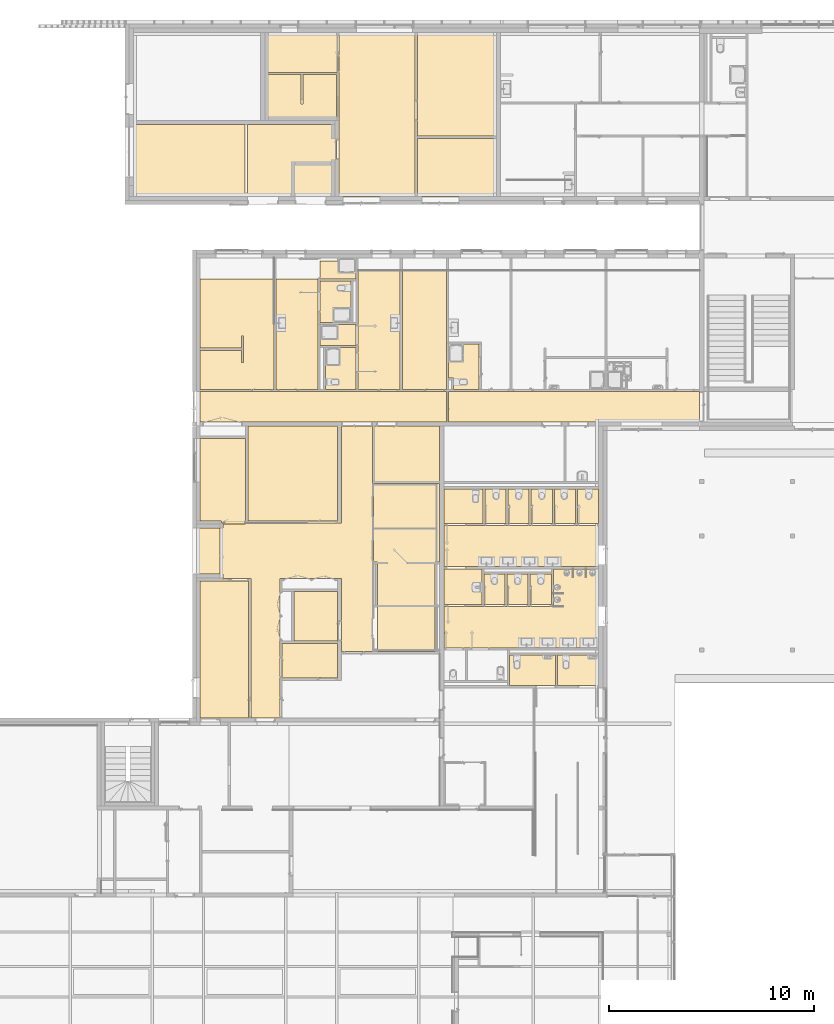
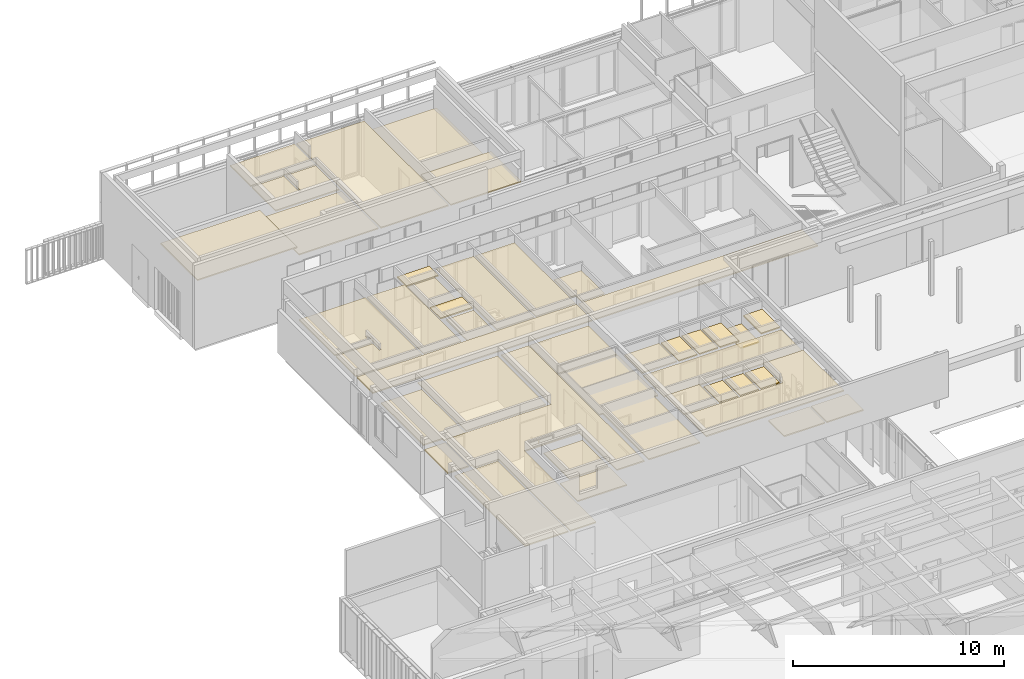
# One storey, part 231 of 240: 38 coverings.
"""IFC2X3 building model written with IfcOpenShell, lengths in centimetres."""

from ifc_helpers import new_model, entity, si_unit, converted_unit, derived_unit, direction, frame, frame_2d, origin, origin_2d_with_axis, place, context, subcontext, project, spatial, polyline, rectangle, outline, extrude, material, layer, layer_set, layer_usage, type_object, element, save


model = new_model("IFC2X3")

# Units and contexts
model_context = context("Model", 3, precision=0.001, world=origin(), true_north=direction((6.12303176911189e-17, 1.0)))
body_context = subcontext(model_context, "Body", "Model", "MODEL_VIEW")
ifc_project = project(units=[si_unit("LENGTHUNIT", "METRE", prefix="CENTI"), si_unit("AREAUNIT", "SQUARE_METRE"), si_unit("VOLUMEUNIT", "CUBIC_METRE"), converted_unit("PLANEANGLEUNIT", "DEGREE", entity("IfcRatioMeasure", 0.0174532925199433), si_unit("PLANEANGLEUNIT", "RADIAN"), dimensions=[0, 0, 0, 0, 0, 0, 0]), si_unit("MASSUNIT", "GRAM", prefix="KILO"), derived_unit("MASSDENSITYUNIT", [(si_unit("MASSUNIT", "GRAM", prefix="KILO"), 1), (si_unit("LENGTHUNIT", "METRE"), -3)]), si_unit("TIMEUNIT", "SECOND"), si_unit("FREQUENCYUNIT", "HERTZ"), si_unit("THERMODYNAMICTEMPERATUREUNIT", "DEGREE_CELSIUS"), derived_unit("THERMALTRANSMITTANCEUNIT", [(si_unit("MASSUNIT", "GRAM", prefix="KILO"), 1), (si_unit("THERMODYNAMICTEMPERATUREUNIT", "KELVIN"), -1), (si_unit("TIMEUNIT", "SECOND"), -3)]), derived_unit("VOLUMETRICFLOWRATEUNIT", [(si_unit("LENGTHUNIT", "METRE"), 3), (si_unit("TIMEUNIT", "SECOND"), -1)]), si_unit("ELECTRICCURRENTUNIT", "AMPERE"), si_unit("ELECTRICVOLTAGEUNIT", "VOLT"), si_unit("POWERUNIT", "WATT"), si_unit("FORCEUNIT", "NEWTON", prefix="KILO"), si_unit("ILLUMINANCEUNIT", "LUX"), si_unit("LUMINOUSFLUXUNIT", "LUMEN"), si_unit("LUMINOUSINTENSITYUNIT", "CANDELA"), derived_unit("USERDEFINED", [(si_unit("MASSUNIT", "GRAM", prefix="KILO"), -1), (si_unit("LENGTHUNIT", "METRE"), -2), (si_unit("TIMEUNIT", "SECOND"), 3), (si_unit("LUMINOUSFLUXUNIT", "LUMEN"), 1)]), derived_unit("LINEARVELOCITYUNIT", [(si_unit("LENGTHUNIT", "METRE"), 1), (si_unit("TIMEUNIT", "SECOND"), -1)]), si_unit("PRESSUREUNIT", "PASCAL"), derived_unit("USERDEFINED", [(si_unit("LENGTHUNIT", "METRE"), -2), (si_unit("MASSUNIT", "GRAM", prefix="KILO"), 1), (si_unit("TIMEUNIT", "SECOND"), -2)])], contexts=[model_context])

# Site, building, storey
site_placement = place(None, frame((-2781.94577612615, 7442.24238424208, 0.0)))
site = spatial("IfcSite", under=ifc_project, at=site_placement, Name="Default", CompositionType="ELEMENT")
building_placement = place(site_placement, origin())
building = spatial("IfcBuilding", under=site, at=building_placement, CompositionType="ELEMENT")
storey_placement = place(building_placement, origin())
storey = spatial("IfcBuildingStorey", under=building, at=storey_placement, Name="N00 - COO", CompositionType="ELEMENT", Elevation=0.0)

# Covering
ifc_material_1 = material(Name="00 - VIDE D'AIR")
ifc_layer_1 = layer(ifc_material_1, 5.7)
ifc_material_2 = material(Name="01 - Enduit/Plâtre - faux plafonds")
ifc_layer_2 = layer(ifc_material_2, 1.3)
ifc_layer_set = layer_set([ifc_layer_1, ifc_layer_2], Name="Plafond composé:11-Plafond 1BA13")
ifc_layer_usage_1 = layer_usage(ifc_layer_set, "AXIS3", "POSITIVE", 0.0)
covering_type_1 = type_object("IfcCoveringType", Name="Plafond composé:11-Plafond 1BA13", PredefinedType="CEILING")
covering_1_placement = place(building_placement, origin())
element("IfcCovering", 1, at=covering_1_placement, inside=storey, type_object=covering_type_1, material=ifc_layer_usage_1, Name="Plafond composé:11-Plafond 1BA13", ObjectType="Plafond composé:11-Plafond 1BA13", PredefinedType="CEILING", context=body_context, shape_type="SweptSolid", body=[
    extrude(rectangle(XDim=350.048500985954, YDim=544.16181917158, at=frame_2d((0.0, -8.81072992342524e-13), x_axis=(1.0, 0.0))), frame((-10918.5807872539, -635.024250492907, 360.0), z_axis=(0.0, 0.0, 1.0), x_axis=(0.0, 1.0, 0.0)), (0.0, 0.0, 1.0), 6.99999999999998),
])

# Space
space_1_placement = place(building_placement, origin())
space_1 = spatial("IfcSpace", under=storey, at=space_1_placement, Name="E-5.2", CompositionType="ELEMENT", InteriorOrExteriorSpace="INTERNAL")

# Covering
ifc_layer_usage_2 = layer_usage(ifc_layer_set, "AXIS3", "POSITIVE", 0.0)
covering_type_2 = type_object("IfcCoveringType", Name="Plafond composé:11-Plafond 1BA13", PredefinedType="CEILING")
covering_2_placement = place(space_1_placement, origin())
element("IfcCovering", 2, at=covering_2_placement, inside=space_1, type_object=covering_type_2, material=ifc_layer_usage_2, Name="Plafond composé:11-Plafond 1BA13", ObjectType="Plafond composé:11-Plafond 1BA13", PredefinedType="CEILING", context=body_context, shape_type="SweptSolid", body=[
    extrude(rectangle(XDim=350.048500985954, YDim=434.999999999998, at=frame_2d((2.8421709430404e-14, 0.0), x_axis=(1.0, 0.0))), frame((-10416.9998776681, -635.024250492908, 313.0), z_axis=(0.0, 0.0, 1.0), x_axis=(0.0, 1.0, 0.0)), (0.0, 0.0, 1.0), 6.99999999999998),
])

# Space
space_2_placement = place(building_placement, origin())
space_2 = spatial("IfcSpace", under=storey, at=space_2_placement, Name="E-2", CompositionType="ELEMENT", InteriorOrExteriorSpace="INTERNAL")

# Coverings
ifc_layer_usage_3 = layer_usage(ifc_layer_set, "AXIS3", "POSITIVE", 0.0)
covering_type_3 = type_object("IfcCoveringType", Name="Plafond composé:11-Plafond 1BA13", PredefinedType="CEILING")
covering_3_placement = place(space_2_placement, origin())
element("IfcCovering", 3, at=covering_3_placement, inside=space_2, type_object=covering_type_3, material=ifc_layer_usage_3, Name="Plafond composé:11-Plafond 1BA13", ObjectType="Plafond composé:11-Plafond 1BA13", PredefinedType="CEILING", context=body_context, shape_type="SweptSolid", body=[
    extrude(outline(polyline([(-178.0, -132.499999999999), (172.0, -132.499999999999), (172.0, 92.4999999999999), (8.0, 92.4999999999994), (8.0, -52.4999999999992), (-1.99999999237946, -52.4999999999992), (-1.99999999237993, 92.499999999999), (-178.0, 92.4999999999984), (-178.0, -132.499999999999)])), frame((-10371.4998776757, -307.499999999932, 313.0)), (0.0, 0.0, 1.0), 6.99999999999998),
    extrude(rectangle(XDim=195.000000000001, YDim=352.000000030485, at=frame_2d((-2.62900812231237e-13, -8.66862137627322e-13), x_axis=(1.0, 0.0))), frame((-10373.4998776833, -107.499999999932, 313.0), z_axis=(0.0, 0.0, 1.0), x_axis=(0.0, -1.0, 0.0)), (0.0, 0.0, 1.0), 6.99999999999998),
])
ifc_layer_usage_4 = layer_usage(ifc_layer_set, "AXIS3", "POSITIVE", 0.0)
covering_type_4 = type_object("IfcCoveringType", Name="Plafond composé:11-Plafond 1BA13", PredefinedType="CEILING")
covering_4_placement = place(building_placement, origin())
element("IfcCovering", 4, at=covering_4_placement, inside=storey, type_object=covering_type_4, material=ifc_layer_usage_4, Name="Plafond composé:11-Plafond 1BA13", ObjectType="Plafond composé:11-Plafond 1BA13", PredefinedType="CEILING", context=body_context, shape_type="SweptSolid", body=[
    extrude(rectangle(XDim=801.748500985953, YDim=370.999999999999, at=frame_2d((2.8421709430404e-13, -8.66862137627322e-13), x_axis=(1.0, 0.0))), frame((-10001.9998776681, -410.874250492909, 313.0), z_axis=(0.0, 0.0, 1.0), x_axis=(0.0, 1.0, 0.0)), (0.0, 0.0, 1.0), 6.99999999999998),
])

# Space
space_3_placement = place(building_placement, origin())
space_3 = spatial("IfcSpace", under=storey, at=space_3_placement, Name="E-4", CompositionType="ELEMENT", InteriorOrExteriorSpace="INTERNAL")

# Coverings
ifc_layer_usage_5 = layer_usage(ifc_layer_set, "AXIS3", "POSITIVE", 0.0)
covering_type_5 = type_object("IfcCoveringType", Name="Plafond composé:11-Plafond 1BA13", PredefinedType="CEILING")
covering_5_placement = place(space_3_placement, origin())
element("IfcCovering", 5, at=covering_5_placement, inside=space_3, type_object=covering_type_5, material=ifc_layer_usage_5, Name="Plafond composé:11-Plafond 1BA13", ObjectType="Plafond composé:11-Plafond 1BA13", PredefinedType="CEILING", context=body_context, shape_type="SweptSolid", body=[
    extrude(rectangle(XDim=385.000000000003, YDim=504.748500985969, at=frame_2d((8.5265128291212e-13, -5.6843418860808e-14), x_axis=(1.0, 0.0))), frame((-9611.99987766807, -262.374250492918, 250.0)), (0.0, 0.0, 1.0), 6.99999999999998),
])
ifc_layer_usage_6 = layer_usage(ifc_layer_set, "AXIS3", "POSITIVE", 0.0)
covering_type_6 = type_object("IfcCoveringType", Name="Plafond composé:11-Plafond 1BA13", PredefinedType="CEILING")
covering_6_placement = place(building_placement, origin())
element("IfcCovering", 6, at=covering_6_placement, inside=storey, type_object=covering_type_6, material=ifc_layer_usage_6, Name="Plafond composé:11-Plafond 1BA13", ObjectType="Plafond composé:11-Plafond 1BA13", PredefinedType="CEILING", context=body_context, shape_type="SweptSolid", body=[
    extrude(rectangle(XDim=284.999999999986, YDim=385.000000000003, at=origin_2d_with_axis()), frame((-9611.99987766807, -669.248500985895, 311.500000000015), z_axis=(0.0, 0.0, 1.0), x_axis=(0.0, 1.0, 0.0)), (0.0, 0.0, 1.0), 6.99999999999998),
])

# Space
space_4_placement = place(building_placement, origin())
space_4 = spatial("IfcSpace", under=storey, at=space_4_placement, Name="D-17", CompositionType="ELEMENT", InteriorOrExteriorSpace="INTERNAL")

# Coverings
ifc_layer_usage_7 = layer_usage(ifc_layer_set, "AXIS3", "POSITIVE", 0.0)
covering_type_7 = type_object("IfcCoveringType", Name="Plafond composé:11-Plafond 1BA13", PredefinedType="CEILING")
covering_7_placement = place(space_4_placement, origin())
element("IfcCovering", 7, at=covering_7_placement, inside=space_4, type_object=covering_type_7, material=ifc_layer_usage_7, Name="Plafond composé:11-Plafond 1BA13", ObjectType="Plafond composé:11-Plafond 1BA13", PredefinedType="CEILING", context=body_context, shape_type="SweptSolid", body=[
    extrude(rectangle(XDim=437.478497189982, YDim=461.000000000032, at=frame_2d((0.0, -1.13686837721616e-13), x_axis=(1.0, 0.0))), frame((-10413.5737990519, -2160.57903364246, 250.0)), (0.0, 0.0, 1.0), 6.99999999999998),
])
ifc_layer_usage_8 = layer_usage(ifc_layer_set, "AXIS3", "POSITIVE", 0.0)
covering_type_8 = type_object("IfcCoveringType", Name="Plafond composé:11-Plafond 1BA13", PredefinedType="CEILING")
covering_8_placement = place(building_placement, origin())
element("IfcCovering", 8, at=covering_8_placement, inside=storey, type_object=covering_type_8, material=ifc_layer_usage_8, Name="Plafond composé:11-Plafond 1BA13", ObjectType="Plafond composé:11-Plafond 1BA13", PredefinedType="CEILING", context=body_context, shape_type="SweptSolid", body=[
    extrude(outline(polyline([(11.357142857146, -152.5), (128.657142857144, -152.5), (128.657142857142, 263.8), (-93.3428571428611, 263.8), (-93.3428571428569, 51.8), (-93.3428571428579, -137.199999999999), (11.357142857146, -137.199999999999), (11.357142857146, -152.5)])), frame((-10772.9701905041, -2253.87903364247, 250.0)), (0.0, 0.0, 1.0), 6.99999999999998),
])
ifc_layer_usage_9 = layer_usage(ifc_layer_set, "AXIS3", "POSITIVE", 0.0)
covering_type_9 = type_object("IfcCoveringType", Name="Plafond composé:11-Plafond 1BA13", PredefinedType="CEILING")
covering_9_placement = place(building_placement, origin())
element("IfcCovering", 9, at=covering_9_placement, inside=storey, type_object=covering_type_9, material=ifc_layer_usage_9, Name="Plafond composé:11-Plafond 1BA13", ObjectType="Plafond composé:11-Plafond 1BA13", PredefinedType="CEILING", context=body_context, shape_type="SweptSolid", body=[
    extrude(outline(polyline([(-161.795879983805, -395.714444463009), (160.045879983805, -395.714444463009), (160.045879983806, -13.5069419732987), (141.045879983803, -13.5069419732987), (141.045879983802, 422.728328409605), (-139.295879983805, 422.728328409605), (-139.295879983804, -13.5069419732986), (-161.795879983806, -13.5069419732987), (-161.795879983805, -395.714444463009)])), frame((-9858.79587696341, -2604.79347810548, 250.0), z_axis=(0.0, 0.0, 1.0), x_axis=(-1.0, 0.0, 0.0)), (0.0, 0.0, 1.0), 6.99999999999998),
])

# Space
space_5_placement = place(building_placement, origin())
space_5 = spatial("IfcSpace", under=storey, at=space_5_placement, Name="E-9", CompositionType="ELEMENT", InteriorOrExteriorSpace="INTERNAL")

# Covering
ifc_layer_usage_10 = layer_usage(ifc_layer_set, "AXIS3", "POSITIVE", 0.0)
covering_type_10 = type_object("IfcCoveringType", Name="Plafond composé:11-Plafond 1BA13", PredefinedType="CEILING")
covering_10_placement = place(space_5_placement, origin())
element("IfcCovering", 10, at=covering_10_placement, inside=space_5, type_object=covering_type_10, material=ifc_layer_usage_10, Name="Plafond composé:11-Plafond 1BA13", ObjectType="Plafond composé:11-Plafond 1BA13", PredefinedType="CEILING", context=body_context, shape_type="SweptSolid", body=[
    extrude(rectangle(XDim=321.84175996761, YDim=269.000000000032, at=frame_2d((0.0, -3.26849658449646e-13), x_axis=(1.0, 0.0))), frame((-9857.92087696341, -2064.57903364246, 250.0)), (0.0, 0.0, 1.0), 6.99999999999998),
])

# Space
space_6_placement = place(building_placement, origin())
space_6 = spatial("IfcSpace", under=storey, at=space_6_placement, Name="B-20", CompositionType="ELEMENT", InteriorOrExteriorSpace="INTERNAL")

# Coverings
ifc_layer_usage_11 = layer_usage(ifc_layer_set, "AXIS3", "POSITIVE", 0.0)
covering_type_11 = type_object("IfcCoveringType", Name="Plafond composé:11-Plafond 1BA13", PredefinedType="CEILING")
covering_11_placement = place(space_6_placement, origin())
element("IfcCovering", 11, at=covering_11_placement, inside=space_6, type_object=covering_type_11, material=ifc_layer_usage_11, Name="Plafond composé:11-Plafond 1BA13", ObjectType="Plafond composé:11-Plafond 1BA13", PredefinedType="CEILING", context=body_context, shape_type="SweptSolid", body=[
    extrude(rectangle(XDim=755.067816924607, YDim=200.0, at=frame_2d((0.0, -2.20268248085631e-13), x_axis=(1.0, 0.0))), frame((-9299.4660885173, -2515.07903364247, 250.0), z_axis=(0.0, 0.0, 1.0), x_axis=(-1.0, 0.0, 0.0)), (0.0, 0.0, 1.0), 6.99999999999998),
])
ifc_layer_usage_12 = layer_usage(ifc_layer_set, "AXIS3", "POSITIVE", 0.0)
covering_type_12 = type_object("IfcCoveringType", Name="Plafond composé:11-Plafond 1BA13", PredefinedType="CEILING")
covering_12_placement = place(space_6_placement, origin())
element("IfcCovering", 12, at=covering_12_placement, inside=space_6, type_object=covering_type_12, material=ifc_layer_usage_12, Name="Plafond composé:11-Plafond 1BA13", ObjectType="Plafond composé:11-Plafond 1BA13", PredefinedType="CEILING", context=body_context, shape_type="SweptSolid", body=[
    extrude(rectangle(XDim=169.999999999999, YDim=190.027126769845, at=frame_2d((0.0, 8.66862137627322e-13), x_axis=(1.0, 0.0))), frame((-9581.98643359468, -2320.07903364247, 260.0), z_axis=(0.0, 0.0, 1.0), x_axis=(0.0, 1.0, 0.0)), (0.0, 0.0, 1.0), 6.99999999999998),
])
ifc_layer_usage_13 = layer_usage(ifc_layer_set, "AXIS3", "POSITIVE", 0.0)
covering_type_13 = type_object("IfcCoveringType", Name="Plafond composé:11-Plafond 1BA13", PredefinedType="CEILING")
covering_13_placement = place(space_6_placement, origin())
element("IfcCovering", 13, at=covering_13_placement, inside=space_6, type_object=covering_type_13, material=ifc_layer_usage_13, Name="Plafond composé:11-Plafond 1BA13", ObjectType="Plafond composé:11-Plafond 1BA13", PredefinedType="CEILING", context=body_context, shape_type="SweptSolid", body=[
    extrude(rectangle(XDim=169.999999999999, YDim=103.006781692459, at=frame_2d((-2.20268248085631e-13, -8.66862137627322e-13), x_axis=(1.0, 0.0))), frame((-9425.46947936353, -2320.07903364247, 260.0), z_axis=(0.0, 0.0, 1.0), x_axis=(0.0, 1.0, 0.0)), (0.0, 0.0, 1.0), 6.99999999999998),
])
ifc_layer_usage_14 = layer_usage(ifc_layer_set, "AXIS3", "POSITIVE", 0.0)
covering_type_14 = type_object("IfcCoveringType", Name="Plafond composé:11-Plafond 1BA13", PredefinedType="CEILING")
covering_14_placement = place(space_6_placement, origin())
element("IfcCovering", 14, at=covering_14_placement, inside=space_6, type_object=covering_type_14, material=ifc_layer_usage_14, Name="Plafond composé:11-Plafond 1BA13", ObjectType="Plafond composé:11-Plafond 1BA13", PredefinedType="CEILING", context=body_context, shape_type="SweptSolid", body=[
    extrude(rectangle(XDim=170.0, YDim=103.006781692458, at=frame_2d((-2.20268248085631e-13, 0.0), x_axis=(1.0, 0.0))), frame((-9312.46269767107, -2320.07903364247, 260.0), z_axis=(0.0, 0.0, 1.0), x_axis=(0.0, 1.0, 0.0)), (0.0, 0.0, 1.0), 6.99999999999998),
])
ifc_layer_usage_15 = layer_usage(ifc_layer_set, "AXIS3", "POSITIVE", 0.0)
covering_type_15 = type_object("IfcCoveringType", Name="Plafond composé:11-Plafond 1BA13", PredefinedType="CEILING")
covering_15_placement = place(space_6_placement, origin())
element("IfcCovering", 15, at=covering_15_placement, inside=space_6, type_object=covering_type_15, material=ifc_layer_usage_15, Name="Plafond composé:11-Plafond 1BA13", ObjectType="Plafond composé:11-Plafond 1BA13", PredefinedType="CEILING", context=body_context, shape_type="SweptSolid", body=[
    extrude(rectangle(XDim=169.999999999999, YDim=103.006781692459, at=frame_2d((-2.20268248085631e-13, -8.66862137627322e-13), x_axis=(1.0, 0.0))), frame((-9199.45591597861, -2320.07903364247, 260.0), z_axis=(0.0, 0.0, 1.0), x_axis=(0.0, 1.0, 0.0)), (0.0, 0.0, 1.0), 6.99999999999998),
])
ifc_layer_usage_16 = layer_usage(ifc_layer_set, "AXIS3", "POSITIVE", 0.0)
covering_type_16 = type_object("IfcCoveringType", Name="Plafond composé:11-Plafond 1BA13", PredefinedType="CEILING")
covering_16_placement = place(space_6_placement, frame((0.0, 0.0, -234.674140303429)))
element("IfcCovering", 16, at=covering_16_placement, inside=space_6, type_object=covering_type_16, material=ifc_layer_usage_16, Name="Plafond composé:11-Plafond 1BA13", ObjectType="Plafond composé:11-Plafond 1BA13", PredefinedType="CEILING", context=body_context, shape_type="SweptSolid", body=[
    extrude(rectangle(XDim=169.999999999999, YDim=103.006781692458, at=frame_2d((-2.20268248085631e-13, 0.0), x_axis=(1.0, 0.0))), frame((-9086.44913428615, -2320.07903364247, 450.0), z_axis=(0.0, 0.0, 1.0), x_axis=(0.0, 1.0, 0.0)), (0.0, 0.0, 1.0), 7.00000000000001),
])
ifc_layer_usage_17 = layer_usage(ifc_layer_set, "AXIS3", "POSITIVE", 0.0)
covering_type_17 = type_object("IfcCoveringType", Name="Plafond composé:11-Plafond 1BA13", PredefinedType="CEILING")
covering_17_placement = place(space_6_placement, origin())
element("IfcCovering", 17, at=covering_17_placement, inside=space_6, type_object=covering_type_17, material=ifc_layer_usage_17, Name="Plafond composé:11-Plafond 1BA13", ObjectType="Plafond composé:11-Plafond 1BA13", PredefinedType="CEILING", context=body_context, shape_type="SweptSolid", body=[
    extrude(rectangle(XDim=103.013563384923, YDim=169.999999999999, at=frame_2d((8.66862137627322e-13, -2.1316282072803e-13), x_axis=(1.0, 0.0))), frame((-8973.43896174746, -2320.07903364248, 260.0), z_axis=(0.0, 0.0, 1.0), x_axis=(-1.0, 0.0, 0.0)), (0.0, 0.0, 1.0), 6.99999999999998),
])

# Space
space_7_placement = place(building_placement, origin())
space_7 = spatial("IfcSpace", under=storey, at=space_7_placement, Name="E-8.3", CompositionType="ELEMENT", InteriorOrExteriorSpace="INTERNAL")

# Covering
ifc_layer_usage_18 = layer_usage(ifc_layer_set, "AXIS3", "POSITIVE", 0.0)
covering_type_18 = type_object("IfcCoveringType", Name="Plafond composé:11-Plafond 1BA13", PredefinedType="CEILING")
covering_18_placement = place(space_7_placement, origin())
element("IfcCovering", 18, at=covering_18_placement, inside=space_7, type_object=covering_type_18, material=ifc_layer_usage_18, Name="Plafond composé:11-Plafond 1BA13", ObjectType="Plafond composé:11-Plafond 1BA13", PredefinedType="CEILING", context=body_context, shape_type="SweptSolid", body=[
    extrude(rectangle(XDim=174.999999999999, YDim=184.999999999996, at=frame_2d((4.33431068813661e-13, 0.0), x_axis=(1.0, 0.0))), frame((-9584.4999969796, -2712.57903364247, 260.0), z_axis=(0.0, 0.0, 1.0), x_axis=(0.0, 1.0, 0.0)), (0.0, 0.0, 1.0), 6.99999999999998),
])

# Space
space_8_placement = place(building_placement, origin())
space_8 = spatial("IfcSpace", under=storey, at=space_8_placement, Name="B-20", CompositionType="ELEMENT", InteriorOrExteriorSpace="INTERNAL")

# Coverings
ifc_layer_usage_19 = layer_usage(ifc_layer_set, "AXIS3", "POSITIVE", 0.0)
covering_type_19 = type_object("IfcCoveringType", Name="Plafond composé:11-Plafond 1BA13", PredefinedType="CEILING")
covering_19_placement = place(space_8_placement, origin())
element("IfcCovering", 19, at=covering_19_placement, inside=space_8, type_object=covering_type_19, material=ifc_layer_usage_19, Name="Plafond composé:11-Plafond 1BA13", ObjectType="Plafond composé:11-Plafond 1BA13", PredefinedType="CEILING", context=body_context, shape_type="SweptSolid", body=[
    extrude(rectangle(XDim=150.0, YDim=102.983328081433, at=frame_2d((2.1316282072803e-13, 0.0), x_axis=(1.0, 0.0))), frame((-9430.50833293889, -2725.07903364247, 260.0), z_axis=(0.0, 0.0, 1.0), x_axis=(0.0, 1.0, 0.0)), (0.0, 0.0, 1.0), 6.99999999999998),
])
ifc_layer_usage_20 = layer_usage(ifc_layer_set, "AXIS3", "POSITIVE", 0.0)
covering_type_20 = type_object("IfcCoveringType", Name="Plafond composé:11-Plafond 1BA13", PredefinedType="CEILING")
covering_20_placement = place(space_8_placement, origin())
element("IfcCovering", 20, at=covering_20_placement, inside=space_8, type_object=covering_type_20, material=ifc_layer_usage_20, Name="Plafond composé:11-Plafond 1BA13", ObjectType="Plafond composé:11-Plafond 1BA13", PredefinedType="CEILING", context=body_context, shape_type="SweptSolid", body=[
    extrude(rectangle(XDim=150.0, YDim=103.000000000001, at=origin_2d_with_axis()), frame((-9317.51666889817, -2725.07903364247, 260.0), z_axis=(0.0, 0.0, 1.0), x_axis=(0.0, 1.0, 0.0)), (0.0, 0.0, 1.0), 6.99999999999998),
])
ifc_layer_usage_21 = layer_usage(ifc_layer_set, "AXIS3", "POSITIVE", 0.0)
covering_type_21 = type_object("IfcCoveringType", Name="Plafond composé:11-Plafond 1BA13", PredefinedType="CEILING")
covering_21_placement = place(space_8_placement, origin())
element("IfcCovering", 21, at=covering_21_placement, inside=space_8, type_object=covering_type_21, material=ifc_layer_usage_21, Name="Plafond composé:11-Plafond 1BA13", ObjectType="Plafond composé:11-Plafond 1BA13", PredefinedType="CEILING", context=body_context, shape_type="SweptSolid", body=[
    extrude(rectangle(XDim=103.000000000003, YDim=150.0, at=frame_2d((-8.66862137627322e-13, 2.1316282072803e-13), x_axis=(1.0, 0.0))), frame((-9204.51666889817, -2725.07903364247, 260.0), z_axis=(0.0, 0.0, 1.0), x_axis=(-1.0, 0.0, 0.0)), (0.0, 0.0, 1.0), 6.99999999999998),
])

# Space
space_9_placement = place(building_placement, origin())
space_9 = spatial("IfcSpace", under=storey, at=space_9_placement, Name="D-2", CompositionType="ELEMENT", InteriorOrExteriorSpace="INTERNAL")

# Covering
ifc_layer_usage_22 = layer_usage(ifc_layer_set, "AXIS3", "POSITIVE", 0.0)
covering_type_22 = type_object("IfcCoveringType", Name="Plafond composé:11-Plafond 1BA13", PredefinedType="CEILING")
covering_22_placement = place(space_9_placement, origin())
element("IfcCovering", 22, at=covering_22_placement, inside=space_9, type_object=covering_type_22, material=ifc_layer_usage_22, Name="Plafond composé:11-Plafond 1BA13", ObjectType="Plafond composé:11-Plafond 1BA13", PredefinedType="CEILING", context=body_context, shape_type="SweptSolid", body=[
    extrude(rectangle(XDim=149.999999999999, YDim=223.927042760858, at=frame_2d((0.0, 8.66862137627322e-13), x_axis=(1.0, 0.0))), frame((-9243.89570143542, -3120.07903364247, 260.0), z_axis=(0.0, 0.0, 1.0), x_axis=(0.0, 1.0, 0.0)), (0.0, 0.0, 1.0), 6.99999999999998),
])

# Space
space_10_placement = place(building_placement, origin())
space_10 = spatial("IfcSpace", under=storey, at=space_10_placement, Name="D-2", CompositionType="ELEMENT", InteriorOrExteriorSpace="INTERNAL")

# Covering
ifc_layer_usage_23 = layer_usage(ifc_layer_set, "AXIS3", "POSITIVE", 0.0)
covering_type_23 = type_object("IfcCoveringType", Name="Plafond composé:11-Plafond 1BA13", PredefinedType="CEILING")
covering_23_placement = place(space_10_placement, origin())
element("IfcCovering", 23, at=covering_23_placement, inside=space_10, type_object=covering_type_23, material=ifc_layer_usage_23, Name="Plafond composé:11-Plafond 1BA13", ObjectType="Plafond composé:11-Plafond 1BA13", PredefinedType="CEILING", context=body_context, shape_type="SweptSolid", body=[
    extrude(rectangle(XDim=200.0, YDim=149.999999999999, at=frame_2d((0.0, -2.20268248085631e-13), x_axis=(1.0, 0.0))), frame((-9021.932180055, -3120.07903364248, 260.0), z_axis=(0.0, 0.0, 1.0), x_axis=(-1.0, 0.0, 0.0)), (0.0, 0.0, 1.0), 6.99999999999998),
])

# Space
space_11_placement = place(building_placement, origin())
space_11 = spatial("IfcSpace", under=storey, at=space_11_placement, Name="D-18", CompositionType="ELEMENT", InteriorOrExteriorSpace="INTERNAL")

# Covering
ifc_layer_usage_24 = layer_usage(ifc_layer_set, "AXIS3", "POSITIVE", 0.0)
covering_type_24 = type_object("IfcCoveringType", Name="Plafond composé:11-Plafond 1BA13", PredefinedType="CEILING")
covering_24_placement = place(space_11_placement, origin())
element("IfcCovering", 24, at=covering_24_placement, inside=space_11, type_object=covering_type_24, material=ifc_layer_usage_24, Name="Plafond composé:11-Plafond 1BA13", ObjectType="Plafond composé:11-Plafond 1BA13", PredefinedType="CEILING", context=body_context, shape_type="SweptSolid", body=[
    extrude(rectangle(XDim=269.778497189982, YDim=168.0, at=frame_2d((8.66862137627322e-13, 0.0), x_axis=(1.0, 0.0))), frame((-10329.7237990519, -3074.07903364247, 250.0), z_axis=(0.0, 0.0, 1.0), x_axis=(-1.0, 0.0, 0.0)), (0.0, 0.0, 1.0), 6.99999999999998),
])

# Space
space_12_placement = place(building_placement, origin())
space_12 = spatial("IfcSpace", under=storey, at=space_12_placement, Name="D-16", CompositionType="ELEMENT", InteriorOrExteriorSpace="INTERNAL")

# Covering
ifc_layer_usage_25 = layer_usage(ifc_layer_set, "AXIS3", "POSITIVE", 0.0)
covering_type_25 = type_object("IfcCoveringType", Name="Plafond composé:11-Plafond 1BA13", PredefinedType="CEILING")
covering_25_placement = place(space_12_placement, origin())
element("IfcCovering", 25, at=covering_25_placement, inside=space_12, type_object=covering_type_25, material=ifc_layer_usage_25, Name="Plafond composé:11-Plafond 1BA13", ObjectType="Plafond composé:11-Plafond 1BA13", PredefinedType="CEILING", context=body_context, shape_type="SweptSolid", body=[
    extrude(rectangle(XDim=211.778497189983, YDim=243.000000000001, at=frame_2d((0.0, 2.1316282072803e-13), x_axis=(1.0, 0.0))), frame((-10300.723799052, -2856.57903364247, 250.0), z_axis=(0.0, 0.0, 1.0), x_axis=(-1.0, 0.0, 0.0)), (0.0, 0.0, 1.0), 6.99999999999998),
])

# Space
space_13_placement = place(building_placement, origin())
space_13 = spatial("IfcSpace", under=storey, at=space_13_placement, Name="D-14", CompositionType="ELEMENT", InteriorOrExteriorSpace="INTERNAL")

# Covering
ifc_layer_usage_26 = layer_usage(ifc_layer_set, "AXIS3", "POSITIVE", 0.0)
covering_type_26 = type_object("IfcCoveringType", Name="Plafond composé:11-Plafond 1BA13", PredefinedType="CEILING")
covering_26_placement = place(space_13_placement, origin())
element("IfcCovering", 26, at=covering_26_placement, inside=space_13, type_object=covering_type_26, material=ifc_layer_usage_26, Name="Plafond composé:11-Plafond 1BA13", ObjectType="Plafond composé:11-Plafond 1BA13", PredefinedType="CEILING", context=body_context, shape_type="SweptSolid", body=[
    extrude(rectangle(XDim=237.700000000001, YDim=667.442772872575, at=frame_2d((4.02999999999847, -66.7442772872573), x_axis=(1.0, 0.0))), frame((-10751.4930476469, -2952.0561427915, 250.0)), (0.0, 0.0, 1.0), 6.99999999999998),
])

# Space
space_14_placement = place(building_placement, origin())
space_14 = spatial("IfcSpace", under=storey, at=space_14_placement, Name="D-9", CompositionType="ELEMENT", InteriorOrExteriorSpace="INTERNAL")

# Covering
ifc_layer_usage_27 = layer_usage(ifc_layer_set, "AXIS3", "POSITIVE", 0.0)
covering_type_27 = type_object("IfcCoveringType", Name="Plafond composé:11-Plafond 1BA13", PredefinedType="CEILING")
covering_27_placement = place(space_14_placement, origin())
element("IfcCovering", 27, at=covering_27_placement, inside=space_14, type_object=covering_type_27, material=ifc_layer_usage_27, Name="Plafond composé:11-Plafond 1BA13", ObjectType="Plafond composé:11-Plafond 1BA13", PredefinedType="CEILING", context=body_context, shape_type="SweptSolid", body=[
    extrude(rectangle(XDim=205.0, YDim=538.500000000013, at=frame_2d((0.0, 1.13686837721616e-13), x_axis=(1.0, 0.0))), frame((-10391.9998776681, -1480.74999990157, 260.0)), (0.0, 0.0, 1.0), 6.99999999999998),
])

# Space
space_15_placement = place(building_placement, origin())
space_15 = spatial("IfcSpace", under=storey, at=space_15_placement, Name="D-8", CompositionType="ELEMENT", InteriorOrExteriorSpace="INTERNAL")

# Coverings
ifc_layer_usage_28 = layer_usage(ifc_layer_set, "AXIS3", "POSITIVE", 0.0)
covering_type_28 = type_object("IfcCoveringType", Name="Plafond composé:11-Plafond 1BA13", PredefinedType="CEILING")
covering_28_placement = place(space_15_placement, origin())
element("IfcCovering", 28, at=covering_28_placement, inside=space_15, type_object=covering_type_28, material=ifc_layer_usage_28, Name="Plafond composé:11-Plafond 1BA13", ObjectType="Plafond composé:11-Plafond 1BA13", PredefinedType="CEILING", context=body_context, shape_type="SweptSolid", body=[
    extrude(rectangle(XDim=203.0, YDim=149.999999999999, at=frame_2d((0.0, 8.66862137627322e-13), x_axis=(1.0, 0.0))), frame((-10179.4998776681, -1648.49999990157, 250.0), z_axis=(0.0, 0.0, 1.0), x_axis=(0.0, 1.0, 0.0)), (0.0, 0.0, 1.0), 6.99999999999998),
])
ifc_layer_usage_29 = layer_usage(ifc_layer_set, "AXIS3", "POSITIVE", 0.0)
covering_type_29 = type_object("IfcCoveringType", Name="Plafond composé:11-Plafond 1BA13", PredefinedType="CEILING")
covering_29_placement = place(space_15_placement, origin())
element("IfcCovering", 29, at=covering_29_placement, inside=space_15, type_object=covering_type_29, material=ifc_layer_usage_29, Name="Plafond composé:11-Plafond 1BA13", ObjectType="Plafond composé:11-Plafond 1BA13", PredefinedType="CEILING", context=body_context, shape_type="SweptSolid", body=[
    extrude(rectangle(XDim=174.999999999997, YDim=102.0, at=frame_2d((-8.66862137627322e-13, 0.0), x_axis=(1.0, 0.0))), frame((-10191.9998776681, -1486.0, 260.0), z_axis=(0.0, 0.0, 1.0), x_axis=(-1.0, 0.0, 0.0)), (0.0, 0.0, 1.0), 6.99999999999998),
])
ifc_layer_usage_30 = layer_usage(ifc_layer_set, "AXIS3", "POSITIVE", 0.0)
covering_type_30 = type_object("IfcCoveringType", Name="Plafond composé:11-Plafond 1BA13", PredefinedType="CEILING")
covering_30_placement = place(space_14_placement, origin())
element("IfcCovering", 30, at=covering_30_placement, inside=space_14, type_object=covering_type_30, material=ifc_layer_usage_30, Name="Plafond composé:11-Plafond 1BA13", ObjectType="Plafond composé:11-Plafond 1BA13", PredefinedType="CEILING", context=body_context, shape_type="SweptSolid", body=[
    extrude(rectangle(XDim=203.0, YDim=149.999999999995, at=frame_2d((0.0, 8.66862137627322e-13), x_axis=(1.0, 0.0))), frame((-10204.4998776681, -1323.49999990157, 250.0), z_axis=(0.0, 0.0, 1.0), x_axis=(0.0, -1.0, 0.0)), (0.0, 0.0, 1.0), 6.99999999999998),
])
ifc_layer_usage_31 = layer_usage(ifc_layer_set, "AXIS3", "POSITIVE", 0.0)
covering_type_31 = type_object("IfcCoveringType", Name="Plafond composé:11-Plafond 1BA13", PredefinedType="CEILING")
covering_31_placement = place(space_14_placement, origin())
element("IfcCovering", 31, at=covering_31_placement, inside=space_14, type_object=covering_type_31, material=ifc_layer_usage_31, Name="Plafond composé:11-Plafond 1BA13", ObjectType="Plafond composé:11-Plafond 1BA13", PredefinedType="CEILING", context=body_context, shape_type="SweptSolid", body=[
    extrude(rectangle(XDim=86.7000000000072, YDim=174.999999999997, at=frame_2d((1.06581410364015e-13, -8.66862137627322e-13), x_axis=(1.0, 0.0))), frame((-10191.9998776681, -1168.64999990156, 250.0), z_axis=(0.0, 0.0, 1.0), x_axis=(0.0, -1.0, 0.0)), (0.0, 0.0, 1.0), 6.99999999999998),
])
ifc_layer_usage_32 = layer_usage(ifc_layer_set, "AXIS3", "POSITIVE", 0.0)
covering_type_32 = type_object("IfcCoveringType", Name="Plafond composé:11-Plafond 1BA13", PredefinedType="CEILING")
covering_32_placement = place(space_15_placement, origin())
element("IfcCovering", 32, at=covering_32_placement, inside=space_15, type_object=covering_type_32, material=ifc_layer_usage_32, Name="Plafond composé:11-Plafond 1BA13", ObjectType="Plafond composé:11-Plafond 1BA13", PredefinedType="CEILING", context=body_context, shape_type="SweptSolid", body=[
    extrude(rectangle(XDim=204.999999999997, YDim=578.000000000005, at=frame_2d((1.73372427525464e-12, 1.13686837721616e-13), x_axis=(1.0, 0.0))), frame((-9991.99987766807, -1461.0, 260.0)), (0.0, 0.0, 1.0), 6.99999999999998),
])

# Space
space_16_placement = place(building_placement, origin())
space_16 = spatial("IfcSpace", under=storey, at=space_16_placement, Name="D-10", CompositionType="ELEMENT", InteriorOrExteriorSpace="INTERNAL")

# Covering
ifc_layer_usage_33 = layer_usage(ifc_layer_set, "AXIS3", "POSITIVE", 0.0)
covering_type_33 = type_object("IfcCoveringType", Name="Plafond composé:11-Plafond 1BA13", PredefinedType="CEILING")
covering_33_placement = place(space_16_placement, origin())
element("IfcCovering", 33, at=covering_33_placement, inside=space_16, type_object=covering_type_33, material=ifc_layer_usage_33, Name="Plafond composé:11-Plafond 1BA13", ObjectType="Plafond composé:11-Plafond 1BA13", PredefinedType="CEILING", context=body_context, shape_type="SweptSolid", body=[
    extrude(rectangle(XDim=214.999999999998, YDim=578.000000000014, at=origin_2d_with_axis()), frame((-9771.99987766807, -1461.0, 260.0)), (0.0, 0.0, 1.0), 6.99999999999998),
])

# Space
space_17_placement = place(building_placement, origin())
space_17 = spatial("IfcSpace", under=storey, at=space_17_placement, Name="A-15", CompositionType="ELEMENT", InteriorOrExteriorSpace="INTERNAL")

# Coverings
ifc_layer_usage_34 = layer_usage(ifc_layer_set, "AXIS3", "POSITIVE", 0.0)
covering_type_34 = type_object("IfcCoveringType", Name="Plafond composé:11-Plafond 1BA13", PredefinedType="CEILING")
covering_34_placement = place(space_17_placement, origin())
element("IfcCovering", 34, at=covering_34_placement, inside=space_17, type_object=covering_type_34, material=ifc_layer_usage_34, Name="Plafond composé:11-Plafond 1BA13", ObjectType="Plafond composé:11-Plafond 1BA13", PredefinedType="CEILING", context=body_context, shape_type="SweptSolid", body=[
    extrude(outline(polyline([(-91.3333333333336, -91.6666666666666), (128.666666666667, -91.6666666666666), (128.666666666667, 58.3333333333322), (-37.3333333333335, 58.3333333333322), (-37.3333333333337, 33.3333333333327), (-91.3333333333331, 33.3333333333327), (-91.3333333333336, -91.6666666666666)])), frame((-9596.16654433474, -1658.66666656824, 260.0), z_axis=(0.0, 0.0, 1.0), x_axis=(0.0, 1.0, 0.0)), (0.0, 0.0, 1.0), 6.99999999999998),
])
ifc_layer_usage_35 = layer_usage(ifc_layer_set, "AXIS3", "POSITIVE", 0.0)
covering_type_35 = type_object("IfcCoveringType", Name="Plafond composé:11-Plafond 1BA13", PredefinedType="CEILING")
covering_35_placement = place(building_placement, origin())
element("IfcCovering", 35, at=covering_35_placement, inside=storey, type_object=covering_type_35, material=ifc_layer_usage_35, Name="Plafond composé:11-Plafond 1BA13", ObjectType="Plafond composé:11-Plafond 1BA13", PredefinedType="CEILING", context=body_context, shape_type="SweptSolid", body=[
    extrude(outline(polyline([(-308.536155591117, -226.190833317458), (268.942341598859, -226.190833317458), (268.942341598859, -202.890833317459), (274.154595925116, -202.890833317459), (274.154595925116, -202.717758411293), (274.154595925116, 20.5091666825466), (268.942341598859, 20.5091666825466), (268.942341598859, 43.8091666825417), (133.242341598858, 43.8091666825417), (133.242341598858, 723.25193955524), (-6.7576584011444, 723.25193955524), (-6.7576584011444, 43.8091666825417), (-308.536155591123, 43.8091666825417), (-308.536155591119, 398.251939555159), (-458.52894910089, 398.251939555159), (-458.52894910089, -699.190833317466), (-308.536155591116, -699.190833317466), (-308.536155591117, -226.190833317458)])), frame((-10483.3707060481, -2629.26986695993, 250.0), z_axis=(0.0, 0.0, 1.0), x_axis=(-1.0, 0.0, 0.0)), (0.0, 0.0, 1.0), 6.99999999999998),
    extrude(rectangle(XDim=113.999999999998, YDim=223.400000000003, at=frame_2d((11.4000000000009, 22.3053850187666), x_axis=(1.0, 0.0))), frame((-10813.2130476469, -2515.7736486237, 250.0), z_axis=(0.0, 0.0, 1.0), x_axis=(-1.0, 0.0, 0.0)), (0.0, 0.0, 1.0), 6.99999999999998),
])
ifc_layer_usage_36 = layer_usage(ifc_layer_set, "AXIS3", "POSITIVE", 0.0)
covering_type_36 = type_object("IfcCoveringType", Name="Plafond composé:11-Plafond 1BA13", PredefinedType="CEILING")
covering_36_placement = place(building_placement, origin())
element("IfcCovering", 36, at=covering_36_placement, inside=storey, type_object=covering_type_36, material=ifc_layer_usage_36, Name="Plafond composé:11-Plafond 1BA13", ObjectType="Plafond composé:11-Plafond 1BA13", PredefinedType="CEILING", context=body_context, shape_type="SweptSolid", body=[
    extrude(rectangle(XDim=150.079033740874, YDim=1225.0, at=frame_2d((-1.13686837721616e-13, -9.09494701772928e-13), x_axis=(1.0, 0.0))), frame((-9041.99987766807, -1835.03951677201, 260.0), z_axis=(0.0, 0.0, 1.0), x_axis=(0.0, 1.0, 0.0)), (0.0, 0.0, 1.0), 6.99999999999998),
    extrude(rectangle(XDim=1201.81316997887, YDim=150.079033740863, at=frame_2d((0.0, 1.19371179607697e-12), x_axis=(1.0, 0.0))), frame((-10265.4064626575, -1835.03951677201, 260.0), z_axis=(0.0, 0.0, 1.0), x_axis=(-1.0, 0.0, 0.0)), (0.0, 0.0, 1.0), 6.99999999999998),
])

# Space
space_18_placement = place(building_placement, origin())
space_18 = spatial("IfcSpace", under=storey, at=space_18_placement, Name="D-11", CompositionType="ELEMENT", InteriorOrExteriorSpace="INTERNAL")

# Coverings
ifc_layer_usage_37 = layer_usage(ifc_layer_set, "AXIS3", "POSITIVE", 0.0)
covering_type_37 = type_object("IfcCoveringType", Name="Plafond composé:11-Plafond 1BA13", PredefinedType="CEILING")
covering_37_placement = place(space_18_placement, origin())
element("IfcCovering", 37, at=covering_37_placement, inside=space_18, type_object=covering_type_37, material=ifc_layer_usage_37, Name="Plafond composé:11-Plafond 1BA13", ObjectType="Plafond composé:11-Plafond 1BA13", PredefinedType="CEILING", context=body_context, shape_type="SweptSolid", body=[
    extrude(outline(polyline([(-198.494308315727, -318.750000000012), (163.318861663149, -318.750000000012), (163.318861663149, 19.7500000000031), (-39.3811383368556, 19.7500000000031), (-39.3811383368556, -40.2499999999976), (-49.3811383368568, -40.2499999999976), (-49.3811383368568, 89.7500000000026), (-39.3811383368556, 89.7500000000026), (-39.3811383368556, 29.7500000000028), (163.318861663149, 29.7500000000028), (163.318861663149, 219.750000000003), (-198.494308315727, 219.750000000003), (-198.494308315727, -318.750000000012)])), frame((-10702.9941859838, -1530.24999990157, 260.0), z_axis=(0.0, 0.0, 1.0), x_axis=(-1.0, 0.0, 0.0)), (0.0, 0.0, 1.0), 6.99999999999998),
])
ifc_layer_usage_38 = layer_usage(ifc_layer_set, "AXIS3", "POSITIVE", 0.0)
covering_type_38 = type_object("IfcCoveringType", Name="Plafond composé:11-Plafond 1BA13", PredefinedType="CEILING")
covering_38_placement = place(space_8_placement, origin())
element("IfcCovering", 38, at=covering_38_placement, inside=space_8, type_object=covering_type_38, material=ifc_layer_usage_38, Name="Plafond composé:11-Plafond 1BA13", ObjectType="Plafond composé:11-Plafond 1BA13", PredefinedType="CEILING", context=body_context, shape_type="SweptSolid", body=[
    extrude(outline(polyline([(-190.0, -103.799613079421), (-190.0, -324.884101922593), (195.0, -324.884101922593), (195.0, 428.683715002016), (-5.0, 428.683715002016), (-5.0, -103.799613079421), (-190.0, -103.799613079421)])), frame((-9246.81628197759, -2815.07903364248, 260.0), z_axis=(0.0, 0.0, -1.0), x_axis=(0.0, -1.0, 0.0)), (0.0, 0.0, -1.0), 6.99999999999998),
])

save(model, "model.ifc")
